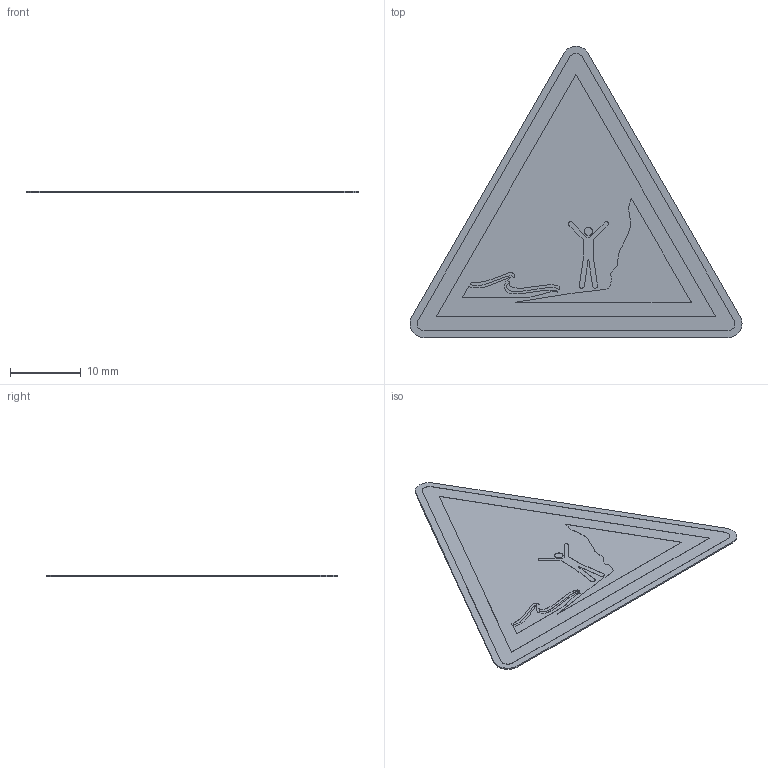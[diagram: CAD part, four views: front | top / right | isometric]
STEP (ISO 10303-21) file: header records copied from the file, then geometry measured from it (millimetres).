
FILE_DESCRIPTION (( 'STEP AP214' ), '1' );
FILE_NAME ('W060_Warnung vor auflaufender Tide.STEP', '2022-03-05T05:26:57', ( '' ), ( '' ), 'SwSTEP 2.0', 'SolidWorks 2021', '' );
FILE_SCHEMA (( 'AUTOMOTIVE_DESIGN' ));
Length unit declared in the file: millimetre
Products named in the file (1): W060_Warnung vor auflaufender Tide
Bounding box: 47.07 x 41.3 x 0.22 mm (x, y, z)
Volume: 222.7 mm3; surface area: 2185.5 mm2
Topology: 1 solids, 1 shells, 160 faces, 450 edges, 300 vertices
Faces by surface type: plane 129, cylinder 31
Entity records: 6800 total; most frequent: CARTESIAN_POINT 911, ORIENTED_EDGE 900, DIRECTION 834, EDGE_CURVE 450, LINE 388, VECTOR 388, VERTEX_POINT 300, AXIS2_PLACEMENT_3D 223
